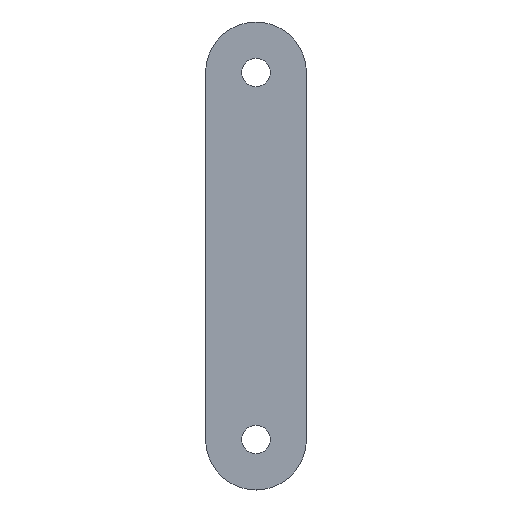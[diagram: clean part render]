
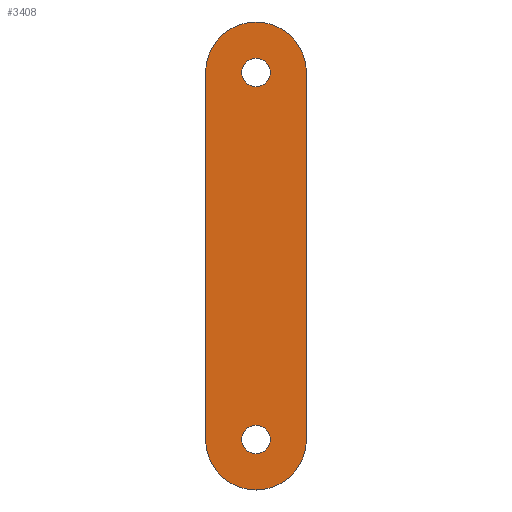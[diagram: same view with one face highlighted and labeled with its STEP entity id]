
A CAD part, front view. The second image highlights one B-rep face of the part: STEP entity #3408.
In plain terms, the highlighted planar face has unit normal (0, -1, 0).
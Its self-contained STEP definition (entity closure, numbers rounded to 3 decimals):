
#79 = EDGE_CURVE ( 'NONE', #5437, #4619, #7152, .T. ) ;
#219 = DIRECTION ( 'NONE',  ( 0., 0., 1. ) ) ;
#235 = VECTOR ( 'NONE', #2458, 1000. ) ;
#280 = VERTEX_POINT ( 'NONE', #6066 ) ;
#330 = CARTESIAN_POINT ( 'NONE',  ( 5.5, -2.75, 220. ) ) ;
#568 = AXIS2_PLACEMENT_3D ( 'NONE', #1833, #1866, #1147 ) ;
#798 = EDGE_CURVE ( 'NONE', #5210, #1347, #5004, .T. ) ;
#803 = CARTESIAN_POINT ( 'NONE',  ( 0., -2.75, 178.45 ) ) ;
#837 = CARTESIAN_POINT ( 'NONE',  ( 0., -2.75, 220. ) ) ;
#891 = DIRECTION ( 'NONE',  ( 0., 0., -1. ) ) ;
#904 = CIRCLE ( 'NONE', #7120, 5.5 ) ;
#917 = DIRECTION ( 'NONE',  ( 0., -1., 0. ) ) ;
#952 = CARTESIAN_POINT ( 'NONE',  ( 0., -2.75, 221.55 ) ) ;
#1015 = CIRCLE ( 'NONE', #3457, 1.55 ) ;
#1018 = EDGE_CURVE ( 'NONE', #3680, #280, #3232, .T. ) ;
#1028 = CARTESIAN_POINT ( 'NONE',  ( 0., -2.75, 181.55 ) ) ;
#1090 = CARTESIAN_POINT ( 'NONE',  ( -5.5, -2.75, 180. ) ) ;
#1147 = DIRECTION ( 'NONE',  ( 0., 0., 1. ) ) ;
#1187 = ORIENTED_EDGE ( 'NONE', *, *, #3655, .T. ) ;
#1197 = DIRECTION ( 'NONE',  ( 0., 1., 0. ) ) ;
#1347 = VERTEX_POINT ( 'NONE', #330 ) ;
#1380 = EDGE_LOOP ( 'NONE', ( #1442, #4513 ) ) ;
#1384 = CARTESIAN_POINT ( 'NONE',  ( 5.5, -2.75, 180. ) ) ;
#1402 = CIRCLE ( 'NONE', #5546, 1.55 ) ;
#1442 = ORIENTED_EDGE ( 'NONE', *, *, #1691, .F. ) ;
#1597 = EDGE_CURVE ( 'NONE', #5924, #1849, #1402, .T. ) ;
#1631 = VERTEX_POINT ( 'NONE', #3444 ) ;
#1666 = AXIS2_PLACEMENT_3D ( 'NONE', #837, #3195, #7132 ) ;
#1691 = EDGE_CURVE ( 'NONE', #3680, #280, #6283, .T. ) ;
#1833 = CARTESIAN_POINT ( 'NONE',  ( 0., -2.75, 220. ) ) ;
#1849 = VERTEX_POINT ( 'NONE', #1028 ) ;
#1866 = DIRECTION ( 'NONE',  ( 0., 1., 0. ) ) ;
#2023 = DIRECTION ( 'NONE',  ( -1., 0., 0. ) ) ;
#2458 = DIRECTION ( 'NONE',  ( 0., 0., 1. ) ) ;
#2466 = DIRECTION ( 'NONE',  ( 0., -1., 0. ) ) ;
#2486 = ORIENTED_EDGE ( 'NONE', *, *, #798, .T. ) ;
#2614 = FACE_BOUND ( 'NONE', #5560, .T. ) ;
#2884 = DIRECTION ( 'NONE',  ( 0., 0., 1. ) ) ;
#2940 = CARTESIAN_POINT ( 'NONE',  ( -5.5, -2.75, 180. ) ) ;
#3077 = EDGE_CURVE ( 'NONE', #5437, #1631, #4724, .T. ) ;
#3195 = DIRECTION ( 'NONE',  ( 0., -1., 0. ) ) ;
#3225 = AXIS2_PLACEMENT_3D ( 'NONE', #6679, #3672, #219 ) ;
#3232 = CIRCLE ( 'NONE', #568, 1.55 ) ;
#3253 = CARTESIAN_POINT ( 'NONE',  ( 5.5, -2.75, 180. ) ) ;
#3258 = CARTESIAN_POINT ( 'NONE',  ( 0., -2.75, 200. ) ) ;
#3293 = CARTESIAN_POINT ( 'NONE',  ( 0., -2.75, 180. ) ) ;
#3408 = ADVANCED_FACE ( 'NONE', ( #3947, #4981, #2614 ), #6201, .F. ) ;
#3444 = CARTESIAN_POINT ( 'NONE',  ( -5.5, -2.75, 220. ) ) ;
#3457 = AXIS2_PLACEMENT_3D ( 'NONE', #3293, #2466, #4400 ) ;
#3655 = EDGE_CURVE ( 'NONE', #4619, #5210, #904, .T. ) ;
#3672 = DIRECTION ( 'NONE',  ( 0., -1., 0. ) ) ;
#3674 = ORIENTED_EDGE ( 'NONE', *, *, #3077, .F. ) ;
#3680 = VERTEX_POINT ( 'NONE', #952 ) ;
#3697 = CARTESIAN_POINT ( 'NONE',  ( 0., -2.75, 174.5 ) ) ;
#3922 = DIRECTION ( 'NONE',  ( -1., 0., 0. ) ) ;
#3947 = FACE_OUTER_BOUND ( 'NONE', #5121, .T. ) ;
#4074 = AXIS2_PLACEMENT_3D ( 'NONE', #3258, #4946, #891 ) ;
#4400 = DIRECTION ( 'NONE',  ( 0., 0., -1. ) ) ;
#4465 = DIRECTION ( 'NONE',  ( 0., -1., 0. ) ) ;
#4513 = ORIENTED_EDGE ( 'NONE', *, *, #1018, .T. ) ;
#4619 = VERTEX_POINT ( 'NONE', #3697 ) ;
#4690 = ORIENTED_EDGE ( 'NONE', *, *, #7331, .T. ) ;
#4724 = LINE ( 'NONE', #1090, #7484 ) ;
#4946 = DIRECTION ( 'NONE',  ( 0., 1., 0. ) ) ;
#4981 = FACE_BOUND ( 'NONE', #1380, .T. ) ;
#5004 = LINE ( 'NONE', #1384, #235 ) ;
#5073 = CARTESIAN_POINT ( 'NONE',  ( 0., -2.75, 180. ) ) ;
#5121 = EDGE_LOOP ( 'NONE', ( #2486, #4690, #3674, #6682, #1187 ) ) ;
#5181 = EDGE_CURVE ( 'NONE', #5924, #1849, #1015, .T. ) ;
#5210 = VERTEX_POINT ( 'NONE', #3253 ) ;
#5437 = VERTEX_POINT ( 'NONE', #2940 ) ;
#5446 = ORIENTED_EDGE ( 'NONE', *, *, #5181, .F. ) ;
#5546 = AXIS2_PLACEMENT_3D ( 'NONE', #6419, #1197, #6490 ) ;
#5560 = EDGE_LOOP ( 'NONE', ( #6050, #5446 ) ) ;
#5693 = CIRCLE ( 'NONE', #1666, 5.5 ) ;
#5924 = VERTEX_POINT ( 'NONE', #803 ) ;
#6050 = ORIENTED_EDGE ( 'NONE', *, *, #1597, .T. ) ;
#6066 = CARTESIAN_POINT ( 'NONE',  ( 0., -2.75, 218.45 ) ) ;
#6201 = PLANE ( 'NONE',  #4074 ) ;
#6283 = CIRCLE ( 'NONE', #3225, 1.55 ) ;
#6419 = CARTESIAN_POINT ( 'NONE',  ( 0., -2.75, 180. ) ) ;
#6490 = DIRECTION ( 'NONE',  ( 0., 0., -1. ) ) ;
#6679 = CARTESIAN_POINT ( 'NONE',  ( 0., -2.75, 220. ) ) ;
#6682 = ORIENTED_EDGE ( 'NONE', *, *, #79, .T. ) ;
#7041 = AXIS2_PLACEMENT_3D ( 'NONE', #5073, #4465, #3922 ) ;
#7120 = AXIS2_PLACEMENT_3D ( 'NONE', #7291, #917, #2023 ) ;
#7132 = DIRECTION ( 'NONE',  ( 1., 0., 0. ) ) ;
#7152 = CIRCLE ( 'NONE', #7041, 5.5 ) ;
#7291 = CARTESIAN_POINT ( 'NONE',  ( 0., -2.75, 180. ) ) ;
#7331 = EDGE_CURVE ( 'NONE', #1347, #1631, #5693, .T. ) ;
#7484 = VECTOR ( 'NONE', #2884, 1000. ) ;
